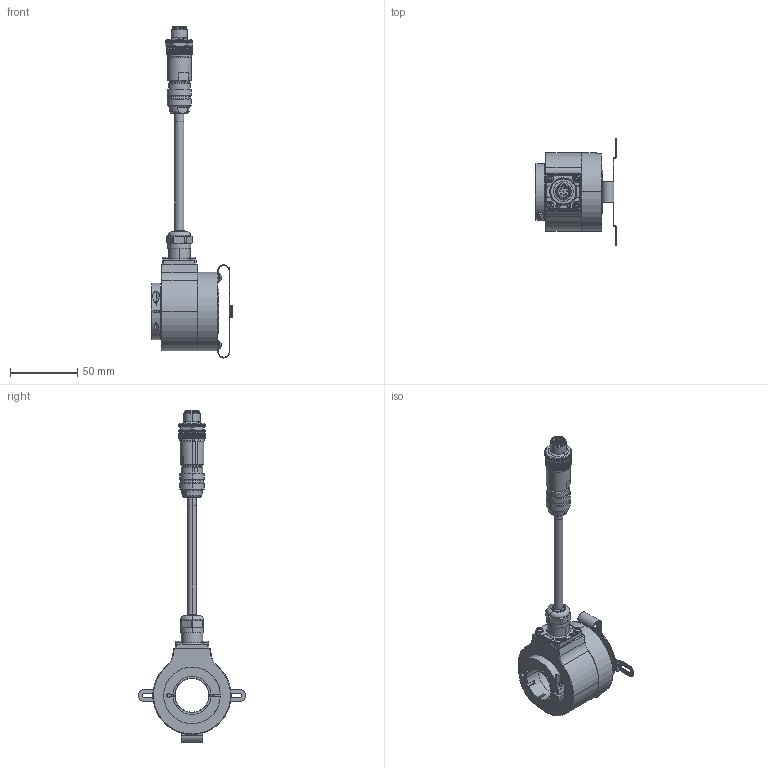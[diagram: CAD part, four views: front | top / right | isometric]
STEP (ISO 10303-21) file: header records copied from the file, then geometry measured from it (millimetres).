
FILE_DESCRIPTION (( 'STEP AP203' ), '1' );
FILE_NAME ('K58I.OXX.XXXXX.XC16525.XXR12.XXXX.step', '2025-12-03T07:33:11', ( '' ), ( '' ), 'SwSTEP 2.0', 'SolidWorks 2021', '' );
FILE_SCHEMA (( 'CONFIG_CONTROL_DESIGN' ));
Length unit declared in the file: millimetre
Products named in the file (1): K58I.OXX.XXXXX.XC16525.XXR12.XXXX
Bounding box: 60.2 x 79.4 x 245.99 mm (x, y, z)
Volume: 126020.1 mm3; surface area: 54706.4 mm2
Topology: 18 solids, 18 shells, 1644 faces, 4065 edges, 2478 vertices
Faces by surface type: cylinder 603, plane 595, cone 317, bspline 62, torus 35, sphere 32
Entity records: 52126 total; most frequent: CARTESIAN_POINT 14294, ORIENTED_EDGE 8042, DIRECTION 7805, EDGE_CURVE 4021, AXIS2_PLACEMENT_3D 3095, VERTEX_POINT 2462, EDGE_LOOP 1729, FACE_OUTER_BOUND 1644
